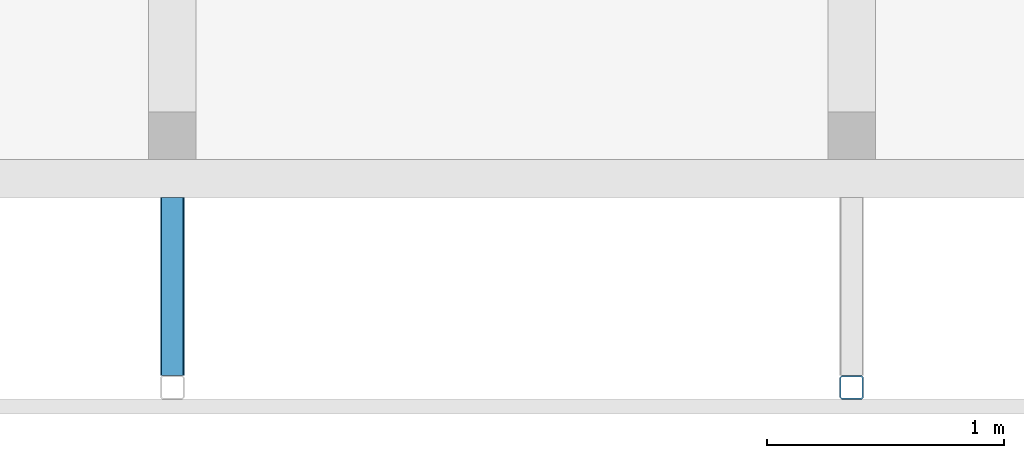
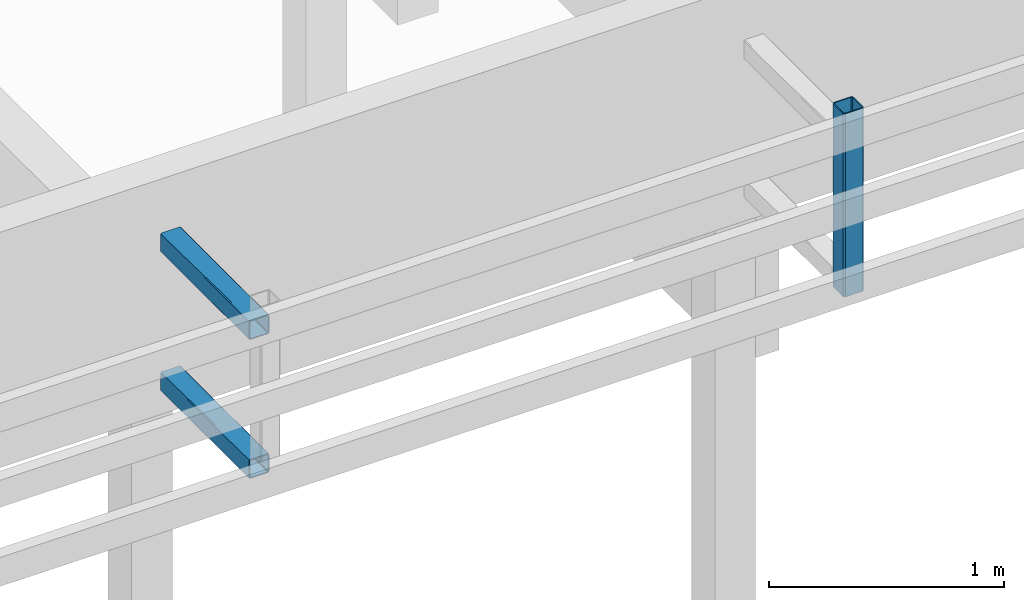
# One storey, part 25 of 44: 3 members.
"""IFC4 building model written with IfcOpenShell, lengths in metres."""

from ifc_helpers import new_model, entity, si_unit, converted_unit, derived_unit, frame, origin, place, context, subcontext, project, spatial, faceted_brep, material, element, save


model = new_model("IFC4")

# Units and contexts
model_context = context("Model", 3, precision=1e-05, world=origin())
plan_context = context("Plan", 2, precision=1e-05, world=origin())
body_context = subcontext(model_context, "Body", "Model", "MODEL_VIEW")
ifc_project = project(units=[si_unit("LENGTHUNIT", "METRE"), si_unit("AREAUNIT", "SQUARE_METRE"), si_unit("VOLUMEUNIT", "CUBIC_METRE"), si_unit("MASSUNIT", "GRAM", prefix="KILO"), converted_unit("PLANEANGLEUNIT", "DEGREE", entity("IfcPlaneAngleMeasure", 0.0174532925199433), si_unit("PLANEANGLEUNIT", "RADIAN"), dimensions=[0, 0, 0, 0, 0, 0, 0]), derived_unit("THERMALTRANSMITTANCEUNIT", [(si_unit("POWERUNIT", "WATT"), 1), (si_unit("THERMODYNAMICTEMPERATUREUNIT", "KELVIN"), -1), (si_unit("LENGTHUNIT", "METRE"), -2)]), derived_unit("VOLUMETRICFLOWRATEUNIT", [(si_unit("LENGTHUNIT", "METRE"), 3), (converted_unit("TIMEUNIT", "hour", entity("IfcTimeMeasure", 3600.0), si_unit("TIMEUNIT", "SECOND"), dimensions=[0, 0, 1, 0, 0, 0, 0]), -1), (si_unit("LENGTHUNIT", "METRE"), -1)])], contexts=[model_context, plan_context])

# Site, building, storey
site_placement = place(None, origin())
site = spatial("IfcSite", under=ifc_project, at=site_placement, Name="Site", CompositionType="ELEMENT")
building_placement = place(site_placement, origin())
building = spatial("IfcBuilding", under=site, at=building_placement, Name="Admin", CompositionType="ELEMENT")
storey_placement = place(building_placement, frame((0.0, 0.0, 3.25)))
storey = spatial("IfcBuildingStorey", under=building, at=storey_placement, Name="01-Etage1", CompositionType="ELEMENT", Elevation=3.25)

# Members
ifc_material_1 = material(Name="S235")
member_1_placement = place(storey_placement, frame((49.6398010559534, 11.0194493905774, 2.82)))
element("IfcMember", 1, at=member_1_placement, inside=storey, material=ifc_material_1, Name="Bandeau R+1", context=body_context, shape_type="Brep", body=[
    faceted_brep([(0.01, 0.095, 0.0), (0.01, 0.095, 0.95), (0.09, 0.095, 0.95), (0.09, 0.095, 0.0), (0.005, 0.09, 0.0), (0.005, 0.09, 0.95), (0.005, 0.01, 0.0), (0.005, 0.01, 0.95), (0.01, 0.005, 0.0), (0.01, 0.005, 0.95), (0.09, 0.005, 0.0), (0.09, 0.005, 0.95), (0.095, 0.01, 0.0), (0.095, 0.01, 0.95), (0.095, 0.09, 0.0), (0.095, 0.09, 0.95), (0.1, 0.0925, 0.0), (0.1, 0.0925, 0.95), (0.0925, 0.1, 0.95), (0.0925, 0.1, 0.0), (0.1, 0.0075, 0.0), (0.1, 0.0075, 0.95), (0.0925, 0.0, 0.0), (0.0925, 0.0, 0.95), (0.0075, 0.0, 0.0), (0.0075, 0.0, 0.95), (0.0, 0.0075, 0.0), (0.0, 0.0075, 0.95), (0.0, 0.0925, 0.0), (0.0, 0.0925, 0.95), (0.0075, 0.1, 0.0), (0.0075, 0.1, 0.95)], [[[0, 1, 2, 3]], [[4, 5, 1, 0]], [[6, 7, 5, 4]], [[8, 9, 7, 6]], [[10, 11, 9, 8]], [[12, 13, 11, 10]], [[14, 15, 13, 12]], [[3, 2, 15, 14]], [[16, 17, 18, 19]], [[20, 21, 17, 16]], [[22, 23, 21, 20]], [[24, 25, 23, 22]], [[26, 27, 25, 24]], [[28, 29, 27, 26]], [[30, 31, 29, 28]], [[19, 18, 31, 30]], [[18, 17, 21, 23, 25, 27, 29, 31], [2, 1, 5, 7, 9, 11, 13, 15]], [[19, 30, 28, 26, 24, 22, 20, 16], [3, 14, 12, 10, 8, 6, 4, 0]]], orient=[[False], [False], [False], [False], [False], [False], [False], [False], [False], [False], [False], [False], [False], [False], [False], [False], [False, False], [False, False]]),
])
ifc_material_2 = material(Name="S235")
member_2_placement = place(storey_placement, frame((46.7798010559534, 11.1194493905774, 3.54)))
element("IfcMember", 2, at=member_2_placement, inside=storey, material=ifc_material_2, Name="Bandeau R+1", context=body_context, shape_type="Brep", body=[
    faceted_brep([(0.095, 0.0, 0.09), (0.095, 0.0, 0.01), (0.0950000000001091, 0.749999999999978, 0.01), (0.0950000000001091, 0.749999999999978, 0.09), (0.0949240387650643, 0.0, 0.0908682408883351), (0.0949240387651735, 0.749999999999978, 0.0908682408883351), (0.0946984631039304, 0.0, 0.0917101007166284), (0.0946984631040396, 0.749999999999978, 0.0917101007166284), (0.0943301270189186, 0.0, 0.0925), (0.0943301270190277, 0.749999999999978, 0.0925), (0.093830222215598, 0.0, 0.0932139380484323), (0.0938302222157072, 0.749999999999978, 0.0932139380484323), (0.0932139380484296, 1.81898940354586e-15, 0.0938302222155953), (0.0932139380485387, 0.74999999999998, 0.0938302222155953), (0.0925, 1.81898940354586e-15, 0.0943301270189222), (0.0925000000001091, 0.74999999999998, 0.0943301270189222), (0.0917101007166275, 1.81898940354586e-15, 0.0946984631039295), (0.0917101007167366, 0.74999999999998, 0.0946984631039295), (0.0908682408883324, 1.81898940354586e-15, 0.0949240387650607), (0.0908682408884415, 0.74999999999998, 0.0949240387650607), (0.09, 1.81898940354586e-15, 0.095), (0.0900000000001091, 0.74999999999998, 0.095), (0.01, 1.2732925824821e-14, 0.095), (0.0100000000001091, 0.749999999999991, 0.095), (0.00913175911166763, 1.2732925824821e-14, 0.0949240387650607), (0.00913175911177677, 0.749999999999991, 0.0949240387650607), (0.00828989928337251, 1.2732925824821e-14, 0.0946984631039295), (0.00828989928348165, 0.749999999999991, 0.0946984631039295), (0.0075, 1.2732925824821e-14, 0.0943301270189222), (0.00750000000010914, 0.749999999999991, 0.0943301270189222), (0.00678606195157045, 1.2732925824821e-14, 0.0938302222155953), (0.00678606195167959, 0.749999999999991, 0.0938302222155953), (0.00616977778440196, 1.45519152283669e-14, 0.0932139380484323), (0.0061697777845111, 0.749999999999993, 0.0932139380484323), (0.00566987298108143, 1.45519152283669e-14, 0.0925), (0.00566987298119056, 0.749999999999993, 0.0925), (0.00530153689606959, 1.45519152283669e-14, 0.0917101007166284), (0.00530153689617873, 0.749999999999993, 0.0917101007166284), (0.00507596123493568, 1.45519152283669e-14, 0.0908682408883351), (0.00507596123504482, 0.749999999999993, 0.0908682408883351), (0.005, 1.45519152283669e-14, 0.09), (0.00500000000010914, 0.749999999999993, 0.09), (0.005, 1.45519152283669e-14, 0.01), (0.00500000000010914, 0.749999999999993, 0.01), (0.00507596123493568, 1.45519152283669e-14, 0.00913175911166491), (0.00507596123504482, 0.749999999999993, 0.00913175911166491), (0.00530153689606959, 1.45519152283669e-14, 0.0082898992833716), (0.00530153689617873, 0.749999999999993, 0.0082898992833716), (0.00566987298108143, 1.45519152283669e-14, 0.0075), (0.00566987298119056, 0.749999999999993, 0.0075), (0.00616977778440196, 1.45519152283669e-14, 0.00678606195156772), (0.0061697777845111, 0.749999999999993, 0.00678606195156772), (0.00678606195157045, 1.2732925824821e-14, 0.00616977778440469), (0.00678606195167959, 0.749999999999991, 0.00616977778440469), (0.0075, 1.2732925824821e-14, 0.00566987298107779), (0.00750000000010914, 0.749999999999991, 0.00566987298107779), (0.00828989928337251, 1.2732925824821e-14, 0.0053015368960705), (0.00828989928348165, 0.749999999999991, 0.0053015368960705), (0.00913175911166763, 1.2732925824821e-14, 0.00507596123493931), (0.00913175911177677, 0.749999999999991, 0.00507596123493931), (0.01, 1.2732925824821e-14, 0.005), (0.0100000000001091, 0.749999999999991, 0.005), (0.09, 1.81898940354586e-15, 0.005), (0.0900000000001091, 0.74999999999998, 0.005), (0.0908682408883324, 1.81898940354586e-15, 0.00507596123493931), (0.0908682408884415, 0.74999999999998, 0.00507596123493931), (0.0917101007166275, 1.81898940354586e-15, 0.0053015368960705), (0.0917101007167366, 0.74999999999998, 0.0053015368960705), (0.0925, 1.81898940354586e-15, 0.00566987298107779), (0.0925000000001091, 0.74999999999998, 0.00566987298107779), (0.0932139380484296, 1.81898940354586e-15, 0.00616977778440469), (0.0932139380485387, 0.74999999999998, 0.00616977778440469), (0.093830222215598, 0.0, 0.00678606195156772), (0.0938302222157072, 0.749999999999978, 0.00678606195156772), (0.0943301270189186, 0.0, 0.0075), (0.0943301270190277, 0.749999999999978, 0.0075), (0.0946984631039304, 0.0, 0.0082898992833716), (0.0946984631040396, 0.749999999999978, 0.0082898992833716), (0.0949240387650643, 0.0, 0.00913175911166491), (0.0949240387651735, 0.749999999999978, 0.00913175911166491), (0.0075, 1.2732925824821e-14, 0.1), (0.00619763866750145, 1.45519152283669e-14, 0.0998860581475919), (0.00619763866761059, 0.749999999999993, 0.0998860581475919), (0.00750000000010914, 0.749999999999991, 0.1), (0.0925, 1.81898940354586e-15, 0.1), (0.0925000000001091, 0.74999999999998, 0.1), (0.0938023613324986, 0.0, 0.0998860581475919), (0.0938023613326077, 0.749999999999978, 0.0998860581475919), (0.0950651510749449, 0.0, 0.0995476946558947), (0.095065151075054, 0.749999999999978, 0.0995476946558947), (0.09625, 0.0, 0.0989951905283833), (0.0962500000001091, 0.749999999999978, 0.0989951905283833), (0.0973209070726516, 0.0, 0.0982453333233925), (0.0973209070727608, 0.749999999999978, 0.0982453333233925), (0.0982453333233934, 0.0, 0.0973209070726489), (0.0982453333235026, 0.749999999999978, 0.0973209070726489), (0.0989951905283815, 0.0, 0.09625), (0.0989951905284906, 0.749999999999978, 0.09625), (0.099547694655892, 0.0, 0.0950651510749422), (0.0995476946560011, 0.749999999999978, 0.0950651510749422), (0.0998860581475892, 0.0, 0.0938023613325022), (0.0998860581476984, 0.749999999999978, 0.0938023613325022), (0.1, 0.0, 0.0925), (0.100000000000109, 0.749999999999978, 0.0925), (0.0998860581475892, 0.0, 0.00619763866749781), (0.1, 0.0, 0.0075), (0.100000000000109, 0.749999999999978, 0.0075), (0.0998860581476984, 0.749999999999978, 0.00619763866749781), (0.099547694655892, 0.0, 0.00493484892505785), (0.0995476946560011, 0.749999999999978, 0.00493484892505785), (0.0989951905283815, 0.0, 0.00375), (0.0989951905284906, 0.749999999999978, 0.00375), (0.0982453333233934, 0.0, 0.00267909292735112), (0.0982453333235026, 0.749999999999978, 0.00267909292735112), (0.0973209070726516, 0.0, 0.00175466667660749), (0.0973209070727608, 0.749999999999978, 0.00175466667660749), (0.09625, 0.0, 0.00100480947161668), (0.0962500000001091, 0.749999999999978, 0.00100480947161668), (0.0950651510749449, 0.0, 0.000452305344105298), (0.095065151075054, 0.749999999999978, 0.000452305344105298), (0.0938023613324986, 0.0, 0.000113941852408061), (0.0938023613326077, 0.749999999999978, 0.000113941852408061), (0.0925, 1.81898940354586e-15, 0.0), (0.0925000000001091, 0.74999999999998, 0.0), (0.0075, 1.2732925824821e-14, 0.0), (0.00750000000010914, 0.749999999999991, 0.0), (0.00619763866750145, 1.45519152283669e-14, 0.000113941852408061), (0.00619763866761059, 0.749999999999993, 0.000113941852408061), (0.00493484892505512, 1.45519152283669e-14, 0.000452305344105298), (0.00493484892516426, 0.749999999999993, 0.000452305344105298), (0.00375, 1.45519152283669e-14, 0.00100480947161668), (0.00375000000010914, 0.749999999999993, 0.00100480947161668), (0.00267909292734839, 1.45519152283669e-14, 0.00175466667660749), (0.00267909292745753, 0.749999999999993, 0.00175466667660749), (0.00175466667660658, 1.45519152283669e-14, 0.00267909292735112), (0.00175466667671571, 0.749999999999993, 0.00267909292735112), (0.0010048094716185, 1.45519152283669e-14, 0.00375), (0.00100480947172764, 0.749999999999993, 0.00375), (0.000452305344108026, 1.45519152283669e-14, 0.00493484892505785), (0.000452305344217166, 0.749999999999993, 0.00493484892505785), (0.00011394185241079, 1.45519152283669e-14, 0.00619763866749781), (0.000113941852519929, 0.749999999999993, 0.00619763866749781), (0.0, 0.0, 0.0075), (1.09139364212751e-13, 0.749999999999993, 0.0075), (0.00011394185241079, 1.45519152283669e-14, 0.0938023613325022), (0.0, -1.81898940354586e-15, 0.0925), (1.09139364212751e-13, 0.749999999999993, 0.0925), (0.000113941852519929, 0.749999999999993, 0.0938023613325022), (0.000452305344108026, 1.45519152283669e-14, 0.0950651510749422), (0.000452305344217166, 0.749999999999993, 0.0950651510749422), (0.0010048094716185, 1.45519152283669e-14, 0.09625), (0.00100480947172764, 0.749999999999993, 0.09625), (0.00175466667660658, 1.45519152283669e-14, 0.0973209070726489), (0.00175466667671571, 0.749999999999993, 0.0973209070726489), (0.00267909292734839, 1.45519152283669e-14, 0.0982453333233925), (0.00267909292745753, 0.749999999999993, 0.0982453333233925), (0.00375, 1.45519152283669e-14, 0.0989951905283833), (0.00375000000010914, 0.749999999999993, 0.0989951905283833), (0.00493484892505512, 1.45519152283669e-14, 0.0995476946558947), (0.00493484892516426, 0.749999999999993, 0.0995476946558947)], [[[0, 1, 2, 3]], [[4, 0, 3, 5]], [[6, 4, 5, 7]], [[8, 6, 7, 9]], [[10, 8, 9, 11]], [[12, 10, 11, 13]], [[14, 12, 13, 15]], [[16, 14, 15, 17]], [[18, 16, 17, 19]], [[20, 18, 19, 21]], [[22, 20, 21, 23]], [[24, 22, 23, 25]], [[26, 24, 25, 27]], [[28, 26, 27, 29]], [[30, 28, 29, 31]], [[32, 30, 31, 33]], [[34, 32, 33, 35]], [[36, 34, 35, 37]], [[38, 36, 37, 39]], [[40, 38, 39, 41]], [[42, 40, 41, 43]], [[44, 42, 43, 45]], [[46, 44, 45, 47]], [[48, 46, 47, 49]], [[50, 48, 49, 51]], [[52, 50, 51, 53]], [[54, 52, 53, 55]], [[56, 54, 55, 57]], [[58, 56, 57, 59]], [[60, 58, 59, 61]], [[62, 60, 61, 63]], [[64, 62, 63, 65]], [[66, 64, 65, 67]], [[68, 66, 67, 69]], [[70, 68, 69, 71]], [[72, 70, 71, 73]], [[74, 72, 73, 75]], [[76, 74, 75, 77]], [[78, 76, 77, 79]], [[1, 78, 79, 2]], [[80, 81, 82, 83]], [[84, 80, 83, 85]], [[86, 84, 85, 87]], [[88, 86, 87, 89]], [[90, 88, 89, 91]], [[92, 90, 91, 93]], [[94, 92, 93, 95]], [[96, 94, 95, 97]], [[98, 96, 97, 99]], [[100, 98, 99, 101]], [[102, 100, 101, 103]], [[104, 105, 106, 107]], [[108, 104, 107, 109]], [[110, 108, 109, 111]], [[112, 110, 111, 113]], [[114, 112, 113, 115]], [[116, 114, 115, 117]], [[118, 116, 117, 119]], [[120, 118, 119, 121]], [[122, 120, 121, 123]], [[124, 122, 123, 125]], [[126, 124, 125, 127]], [[128, 126, 127, 129]], [[130, 128, 129, 131]], [[132, 130, 131, 133]], [[134, 132, 133, 135]], [[136, 134, 135, 137]], [[138, 136, 137, 139]], [[140, 138, 139, 141]], [[142, 140, 141, 143]], [[144, 145, 146, 147]], [[148, 144, 147, 149]], [[150, 148, 149, 151]], [[152, 150, 151, 153]], [[154, 152, 153, 155]], [[156, 154, 155, 157]], [[158, 156, 157, 159]], [[81, 158, 159, 82]], [[146, 143, 141, 139, 137, 135, 133, 131, 129, 127, 125, 123, 121, 119, 117, 115, 113, 111, 109, 107, 106, 103, 101, 99, 97, 95, 93, 91, 89, 87, 85, 83, 82, 159, 157, 155, 153, 151, 149, 147], [2, 79, 77, 75, 73, 71, 69, 67, 65, 63, 61, 59, 57, 55, 53, 51, 49, 47, 45, 43, 41, 39, 37, 35, 33, 31, 29, 27, 25, 23, 21, 19, 17, 15, 13, 11, 9, 7, 5, 3]], [[103, 106, 105, 102]], [[102, 105, 104, 108, 110, 112, 114, 116, 118, 120, 122, 124, 126, 128, 130, 132, 134, 136, 138, 140, 142, 145, 144, 148, 150, 152, 154, 156, 158, 81, 80, 84, 86, 88, 90, 92, 94, 96, 98, 100], [1, 0, 4, 6, 8, 10, 12, 14, 16, 18, 20, 22, 24, 26, 28, 30, 32, 34, 36, 38, 40, 42, 44, 46, 48, 50, 52, 54, 56, 58, 60, 62, 64, 66, 68, 70, 72, 74, 76, 78]], [[145, 142, 143, 146]]], orient=[[False], [False], [False], [False], [False], [False], [False], [False], [False], [False], [False], [False], [False], [False], [False], [False], [False], [False], [False], [False], [False], [False], [False], [False], [False], [False], [False], [False], [False], [False], [False], [False], [False], [False], [False], [False], [False], [False], [False], [False], [False], [False], [False], [False], [False], [False], [False], [False], [False], [False], [False], [False], [False], [False], [False], [False], [False], [False], [False], [False], [False], [False], [False], [False], [False], [False], [False], [False], [False], [False], [False], [False], [False], [False], [False], [False], [False], [False], [False, False], [False], [False, False], [False]]),
])
ifc_material_3 = material(Name="S235")
member_3_placement = place(storey_placement, frame((46.7798010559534, 11.1194493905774, 2.82)))
element("IfcMember", 3, at=member_3_placement, inside=storey, material=ifc_material_3, Name="Bandeau R+1", context=body_context, shape_type="Brep", body=[
    faceted_brep([(0.095, 0.0, 0.09), (0.095, 0.0, 0.01), (0.0950000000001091, 0.749999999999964, 0.01), (0.0950000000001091, 0.749999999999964, 0.09), (0.0949240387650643, 0.0, 0.0908682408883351), (0.0949240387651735, 0.749999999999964, 0.0908682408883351), (0.0946984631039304, 0.0, 0.0917101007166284), (0.0946984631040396, 0.749999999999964, 0.0917101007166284), (0.0943301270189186, 0.0, 0.0925), (0.0943301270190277, 0.749999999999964, 0.0925), (0.093830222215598, 0.0, 0.0932139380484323), (0.0938302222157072, 0.749999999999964, 0.0932139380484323), (0.0932139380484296, 1.81898940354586e-15, 0.0938302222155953), (0.0932139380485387, 0.749999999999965, 0.0938302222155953), (0.0925, 1.81898940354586e-15, 0.0943301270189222), (0.0925000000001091, 0.749999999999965, 0.0943301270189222), (0.0917101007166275, 1.81898940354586e-15, 0.0946984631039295), (0.0917101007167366, 0.749999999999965, 0.0946984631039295), (0.0908682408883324, 1.81898940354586e-15, 0.0949240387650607), (0.0908682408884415, 0.749999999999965, 0.0949240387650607), (0.09, 1.81898940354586e-15, 0.095), (0.0900000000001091, 0.749999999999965, 0.095), (0.01, 1.2732925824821e-14, 0.095), (0.0100000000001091, 0.749999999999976, 0.095), (0.00913175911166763, 1.2732925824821e-14, 0.0949240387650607), (0.00913175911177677, 0.749999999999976, 0.0949240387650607), (0.00828989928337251, 1.2732925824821e-14, 0.0946984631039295), (0.00828989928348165, 0.749999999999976, 0.0946984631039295), (0.0075, 1.2732925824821e-14, 0.0943301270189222), (0.00750000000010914, 0.749999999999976, 0.0943301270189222), (0.00678606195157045, 1.2732925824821e-14, 0.0938302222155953), (0.00678606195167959, 0.749999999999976, 0.0938302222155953), (0.00616977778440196, 1.45519152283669e-14, 0.0932139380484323), (0.0061697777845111, 0.749999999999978, 0.0932139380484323), (0.00566987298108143, 1.45519152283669e-14, 0.0925), (0.00566987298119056, 0.749999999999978, 0.0925), (0.00530153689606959, 1.45519152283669e-14, 0.0917101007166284), (0.00530153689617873, 0.749999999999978, 0.0917101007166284), (0.00507596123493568, 1.45519152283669e-14, 0.0908682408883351), (0.00507596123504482, 0.749999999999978, 0.0908682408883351), (0.005, 1.45519152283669e-14, 0.09), (0.00500000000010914, 0.749999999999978, 0.09), (0.005, 1.45519152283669e-14, 0.01), (0.00500000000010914, 0.749999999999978, 0.01), (0.00507596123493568, 1.45519152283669e-14, 0.00913175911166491), (0.00507596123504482, 0.749999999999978, 0.00913175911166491), (0.00530153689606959, 1.45519152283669e-14, 0.0082898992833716), (0.00530153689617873, 0.749999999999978, 0.0082898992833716), (0.00566987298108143, 1.45519152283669e-14, 0.0075), (0.00566987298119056, 0.749999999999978, 0.0075), (0.00616977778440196, 1.45519152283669e-14, 0.00678606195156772), (0.0061697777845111, 0.749999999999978, 0.00678606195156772), (0.00678606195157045, 1.2732925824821e-14, 0.00616977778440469), (0.00678606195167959, 0.749999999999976, 0.00616977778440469), (0.0075, 1.2732925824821e-14, 0.00566987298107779), (0.00750000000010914, 0.749999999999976, 0.00566987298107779), (0.00828989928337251, 1.2732925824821e-14, 0.0053015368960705), (0.00828989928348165, 0.749999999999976, 0.0053015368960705), (0.00913175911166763, 1.2732925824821e-14, 0.00507596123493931), (0.00913175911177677, 0.749999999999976, 0.00507596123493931), (0.01, 1.2732925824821e-14, 0.005), (0.0100000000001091, 0.749999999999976, 0.005), (0.09, 1.81898940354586e-15, 0.005), (0.0900000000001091, 0.749999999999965, 0.005), (0.0908682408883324, 1.81898940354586e-15, 0.00507596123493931), (0.0908682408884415, 0.749999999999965, 0.00507596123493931), (0.0917101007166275, 1.81898940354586e-15, 0.0053015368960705), (0.0917101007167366, 0.749999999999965, 0.0053015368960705), (0.0925, 1.81898940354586e-15, 0.00566987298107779), (0.0925000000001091, 0.749999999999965, 0.00566987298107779), (0.0932139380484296, 1.81898940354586e-15, 0.00616977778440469), (0.0932139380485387, 0.749999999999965, 0.00616977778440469), (0.093830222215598, 0.0, 0.00678606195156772), (0.0938302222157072, 0.749999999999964, 0.00678606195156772), (0.0943301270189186, 0.0, 0.0075), (0.0943301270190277, 0.749999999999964, 0.0075), (0.0946984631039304, 0.0, 0.0082898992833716), (0.0946984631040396, 0.749999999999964, 0.0082898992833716), (0.0949240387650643, 0.0, 0.00913175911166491), (0.0949240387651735, 0.749999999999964, 0.00913175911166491), (0.0075, 1.2732925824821e-14, 0.1), (0.00619763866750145, 1.45519152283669e-14, 0.0998860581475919), (0.00619763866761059, 0.749999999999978, 0.0998860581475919), (0.00750000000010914, 0.749999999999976, 0.1), (0.0925, 1.81898940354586e-15, 0.1), (0.0925000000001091, 0.749999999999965, 0.1), (0.0938023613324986, 0.0, 0.0998860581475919), (0.0938023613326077, 0.749999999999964, 0.0998860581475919), (0.0950651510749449, 0.0, 0.0995476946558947), (0.095065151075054, 0.749999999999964, 0.0995476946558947), (0.09625, 0.0, 0.0989951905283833), (0.0962500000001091, 0.749999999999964, 0.0989951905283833), (0.0973209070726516, 0.0, 0.0982453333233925), (0.0973209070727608, 0.749999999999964, 0.0982453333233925), (0.0982453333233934, 0.0, 0.0973209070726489), (0.0982453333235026, 0.749999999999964, 0.0973209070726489), (0.0989951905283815, 0.0, 0.09625), (0.0989951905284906, 0.749999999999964, 0.09625), (0.099547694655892, 0.0, 0.0950651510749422), (0.0995476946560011, 0.749999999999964, 0.0950651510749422), (0.0998860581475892, 0.0, 0.0938023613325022), (0.0998860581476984, 0.749999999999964, 0.0938023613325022), (0.1, 0.0, 0.0925), (0.100000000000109, 0.749999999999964, 0.0925), (0.0998860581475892, 0.0, 0.00619763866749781), (0.1, 0.0, 0.0075), (0.100000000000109, 0.749999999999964, 0.0075), (0.0998860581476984, 0.749999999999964, 0.00619763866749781), (0.099547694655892, 0.0, 0.00493484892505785), (0.0995476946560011, 0.749999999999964, 0.00493484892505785), (0.0989951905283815, 0.0, 0.00375), (0.0989951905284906, 0.749999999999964, 0.00375), (0.0982453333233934, 0.0, 0.00267909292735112), (0.0982453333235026, 0.749999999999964, 0.00267909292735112), (0.0973209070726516, 0.0, 0.00175466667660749), (0.0973209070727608, 0.749999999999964, 0.00175466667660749), (0.09625, 0.0, 0.00100480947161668), (0.0962500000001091, 0.749999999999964, 0.00100480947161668), (0.0950651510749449, 0.0, 0.000452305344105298), (0.095065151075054, 0.749999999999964, 0.000452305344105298), (0.0938023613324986, 0.0, 0.000113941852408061), (0.0938023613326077, 0.749999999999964, 0.000113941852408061), (0.0925, 1.81898940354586e-15, 0.0), (0.0925000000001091, 0.749999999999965, 0.0), (0.0075, 1.2732925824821e-14, 0.0), (0.00750000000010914, 0.749999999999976, 0.0), (0.00619763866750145, 1.45519152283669e-14, 0.000113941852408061), (0.00619763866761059, 0.749999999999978, 0.000113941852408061), (0.00493484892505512, 1.45519152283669e-14, 0.000452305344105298), (0.00493484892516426, 0.749999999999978, 0.000452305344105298), (0.00375, 1.45519152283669e-14, 0.00100480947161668), (0.00375000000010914, 0.749999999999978, 0.00100480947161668), (0.00267909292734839, 1.45519152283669e-14, 0.00175466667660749), (0.00267909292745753, 0.749999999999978, 0.00175466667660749), (0.00175466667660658, 1.45519152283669e-14, 0.00267909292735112), (0.00175466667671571, 0.749999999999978, 0.00267909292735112), (0.0010048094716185, 1.45519152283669e-14, 0.00375), (0.00100480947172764, 0.749999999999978, 0.00375), (0.000452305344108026, 1.45519152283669e-14, 0.00493484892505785), (0.000452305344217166, 0.749999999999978, 0.00493484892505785), (0.00011394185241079, 1.45519152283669e-14, 0.00619763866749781), (0.000113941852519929, 0.749999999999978, 0.00619763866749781), (0.0, 0.0, 0.0075), (1.09139364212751e-13, 0.749999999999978, 0.0075), (0.00011394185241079, 1.45519152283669e-14, 0.0938023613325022), (0.0, 0.0, 0.0925), (1.09139364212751e-13, 0.749999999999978, 0.0925), (0.000113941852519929, 0.749999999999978, 0.0938023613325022), (0.000452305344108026, 1.45519152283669e-14, 0.0950651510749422), (0.000452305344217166, 0.749999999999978, 0.0950651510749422), (0.0010048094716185, 1.45519152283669e-14, 0.09625), (0.00100480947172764, 0.749999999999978, 0.09625), (0.00175466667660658, 1.45519152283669e-14, 0.0973209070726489), (0.00175466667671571, 0.749999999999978, 0.0973209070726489), (0.00267909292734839, 1.45519152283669e-14, 0.0982453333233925), (0.00267909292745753, 0.749999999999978, 0.0982453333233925), (0.00375, 1.45519152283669e-14, 0.0989951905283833), (0.00375000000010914, 0.749999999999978, 0.0989951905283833), (0.00493484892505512, 1.45519152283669e-14, 0.0995476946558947), (0.00493484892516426, 0.749999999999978, 0.0995476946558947)], [[[0, 1, 2, 3]], [[4, 0, 3, 5]], [[6, 4, 5, 7]], [[8, 6, 7, 9]], [[10, 8, 9, 11]], [[12, 10, 11, 13]], [[14, 12, 13, 15]], [[16, 14, 15, 17]], [[18, 16, 17, 19]], [[20, 18, 19, 21]], [[22, 20, 21, 23]], [[24, 22, 23, 25]], [[26, 24, 25, 27]], [[28, 26, 27, 29]], [[30, 28, 29, 31]], [[32, 30, 31, 33]], [[34, 32, 33, 35]], [[36, 34, 35, 37]], [[38, 36, 37, 39]], [[40, 38, 39, 41]], [[42, 40, 41, 43]], [[44, 42, 43, 45]], [[46, 44, 45, 47]], [[48, 46, 47, 49]], [[50, 48, 49, 51]], [[52, 50, 51, 53]], [[54, 52, 53, 55]], [[56, 54, 55, 57]], [[58, 56, 57, 59]], [[60, 58, 59, 61]], [[62, 60, 61, 63]], [[64, 62, 63, 65]], [[66, 64, 65, 67]], [[68, 66, 67, 69]], [[70, 68, 69, 71]], [[72, 70, 71, 73]], [[74, 72, 73, 75]], [[76, 74, 75, 77]], [[78, 76, 77, 79]], [[1, 78, 79, 2]], [[80, 81, 82, 83]], [[84, 80, 83, 85]], [[86, 84, 85, 87]], [[88, 86, 87, 89]], [[90, 88, 89, 91]], [[92, 90, 91, 93]], [[94, 92, 93, 95]], [[96, 94, 95, 97]], [[98, 96, 97, 99]], [[100, 98, 99, 101]], [[102, 100, 101, 103]], [[104, 105, 106, 107]], [[108, 104, 107, 109]], [[110, 108, 109, 111]], [[112, 110, 111, 113]], [[114, 112, 113, 115]], [[116, 114, 115, 117]], [[118, 116, 117, 119]], [[120, 118, 119, 121]], [[122, 120, 121, 123]], [[124, 122, 123, 125]], [[126, 124, 125, 127]], [[128, 126, 127, 129]], [[130, 128, 129, 131]], [[132, 130, 131, 133]], [[134, 132, 133, 135]], [[136, 134, 135, 137]], [[138, 136, 137, 139]], [[140, 138, 139, 141]], [[142, 140, 141, 143]], [[144, 145, 146, 147]], [[148, 144, 147, 149]], [[150, 148, 149, 151]], [[152, 150, 151, 153]], [[154, 152, 153, 155]], [[156, 154, 155, 157]], [[158, 156, 157, 159]], [[81, 158, 159, 82]], [[146, 143, 141, 139, 137, 135, 133, 131, 129, 127, 125, 123, 121, 119, 117, 115, 113, 111, 109, 107, 106, 103, 101, 99, 97, 95, 93, 91, 89, 87, 85, 83, 82, 159, 157, 155, 153, 151, 149, 147], [2, 79, 77, 75, 73, 71, 69, 67, 65, 63, 61, 59, 57, 55, 53, 51, 49, 47, 45, 43, 41, 39, 37, 35, 33, 31, 29, 27, 25, 23, 21, 19, 17, 15, 13, 11, 9, 7, 5, 3]], [[103, 106, 105, 102]], [[102, 105, 104, 108, 110, 112, 114, 116, 118, 120, 122, 124, 126, 128, 130, 132, 134, 136, 138, 140, 142, 145, 144, 148, 150, 152, 154, 156, 158, 81, 80, 84, 86, 88, 90, 92, 94, 96, 98, 100], [1, 0, 4, 6, 8, 10, 12, 14, 16, 18, 20, 22, 24, 26, 28, 30, 32, 34, 36, 38, 40, 42, 44, 46, 48, 50, 52, 54, 56, 58, 60, 62, 64, 66, 68, 70, 72, 74, 76, 78]], [[145, 142, 143, 146]]], orient=[[False], [False], [False], [False], [False], [False], [False], [False], [False], [False], [False], [False], [False], [False], [False], [False], [False], [False], [False], [False], [False], [False], [False], [False], [False], [False], [False], [False], [False], [False], [False], [False], [False], [False], [False], [False], [False], [False], [False], [False], [False], [False], [False], [False], [False], [False], [False], [False], [False], [False], [False], [False], [False], [False], [False], [False], [False], [False], [False], [False], [False], [False], [False], [False], [False], [False], [False], [False], [False], [False], [False], [False], [False], [False], [False], [False], [False], [False], [False, False], [False], [False, False], [False]]),
])

save(model, "model.ifc")
